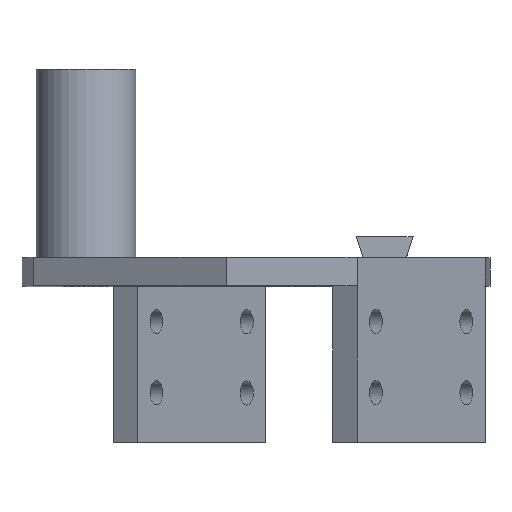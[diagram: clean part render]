
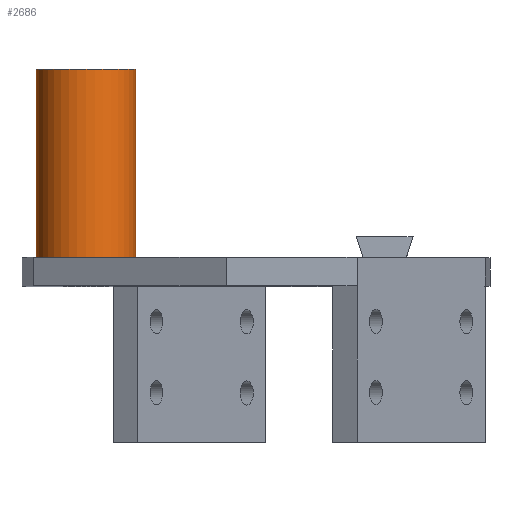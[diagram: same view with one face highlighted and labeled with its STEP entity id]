
A CAD part, top view. The second image highlights one B-rep face of the part: STEP entity #2686.
In plain terms, the highlighted cylindrical face has radius 7 mm (diameter 14 mm), a full revolution.
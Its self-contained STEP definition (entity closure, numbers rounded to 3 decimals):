
#126 = PLANE('',#127);
#127 = AXIS2_PLACEMENT_3D('',#128,#129,#130);
#128 = CARTESIAN_POINT('',(-11.536,4.,-3.975));
#129 = DIRECTION('',(-0.,-1.,-0.));
#130 = DIRECTION('',(0.,0.,-1.));
#920 = EDGE_CURVE('',#921,#921,#923,.T.);
#921 = VERTEX_POINT('',#922);
#922 = CARTESIAN_POINT('',(-23.,4.,0.));
#923 = SURFACE_CURVE('',#924,(#929,#940),.PCURVE_S1.);
#924 = CIRCLE('',#925,7.);
#925 = AXIS2_PLACEMENT_3D('',#926,#927,#928);
#926 = CARTESIAN_POINT('',(-30.,4.,0.));
#927 = DIRECTION('',(-0.,1.,0.));
#928 = DIRECTION('',(1.,0.,0.));
#929 = PCURVE('',#126,#930);
#930 = DEFINITIONAL_REPRESENTATION('',(#931),#939);
#931 = ( BOUNDED_CURVE() B_SPLINE_CURVE(2,(#932,#933,#934,#935,#936,#937
,#938),.UNSPECIFIED.,.T.,.F.) B_SPLINE_CURVE_WITH_KNOTS((1,2,2,2,2,1),(
    -2.094,0.,2.094,4.189,6.283,
8.378),.UNSPECIFIED.) CURVE() GEOMETRIC_REPRESENTATION_ITEM() 
RATIONAL_B_SPLINE_CURVE((1.,0.5,1.,0.5,1.,0.5,1.)) REPRESENTATION_ITEM(
  '') );
#932 = CARTESIAN_POINT('',(-3.975,-11.464));
#933 = CARTESIAN_POINT('',(8.149,-11.464));
#934 = CARTESIAN_POINT('',(2.087,-21.964));
#935 = CARTESIAN_POINT('',(-3.975,-32.464));
#936 = CARTESIAN_POINT('',(-10.038,-21.964));
#937 = CARTESIAN_POINT('',(-16.1,-11.464));
#938 = CARTESIAN_POINT('',(-3.975,-11.464));
#939 = ( GEOMETRIC_REPRESENTATION_CONTEXT(2) 
PARAMETRIC_REPRESENTATION_CONTEXT() REPRESENTATION_CONTEXT('2D SPACE',''
  ) );
#940 = PCURVE('',#941,#946);
#941 = CYLINDRICAL_SURFACE('',#942,7.);
#942 = AXIS2_PLACEMENT_3D('',#943,#944,#945);
#943 = CARTESIAN_POINT('',(-30.,4.,0.));
#944 = DIRECTION('',(0.,-1.,-0.));
#945 = DIRECTION('',(1.,0.,0.));
#946 = DEFINITIONAL_REPRESENTATION('',(#947),#951);
#947 = LINE('',#948,#949);
#948 = CARTESIAN_POINT('',(-0.,0.));
#949 = VECTOR('',#950,1.);
#950 = DIRECTION('',(-1.,0.));
#951 = ( GEOMETRIC_REPRESENTATION_CONTEXT(2) 
PARAMETRIC_REPRESENTATION_CONTEXT() REPRESENTATION_CONTEXT('2D SPACE',''
  ) );
#2686 = ADVANCED_FACE('',(#2687),#941,.T.);
#2687 = FACE_BOUND('',#2688,.F.);
#2688 = EDGE_LOOP('',(#2689,#2712,#2739,#2740));
#2689 = ORIENTED_EDGE('',*,*,#2690,.T.);
#2690 = EDGE_CURVE('',#921,#2691,#2693,.T.);
#2691 = VERTEX_POINT('',#2692);
#2692 = CARTESIAN_POINT('',(-23.,30.5,0.));
#2693 = SEAM_CURVE('',#2694,(#2698,#2705),.PCURVE_S1.);
#2694 = LINE('',#2695,#2696);
#2695 = CARTESIAN_POINT('',(-23.,4.,0.));
#2696 = VECTOR('',#2697,1.);
#2697 = DIRECTION('',(0.,1.,0.));
#2698 = PCURVE('',#941,#2699);
#2699 = DEFINITIONAL_REPRESENTATION('',(#2700),#2704);
#2700 = LINE('',#2701,#2702);
#2701 = CARTESIAN_POINT('',(-0.,0.));
#2702 = VECTOR('',#2703,1.);
#2703 = DIRECTION('',(-0.,-1.));
#2704 = ( GEOMETRIC_REPRESENTATION_CONTEXT(2) 
PARAMETRIC_REPRESENTATION_CONTEXT() REPRESENTATION_CONTEXT('2D SPACE',''
  ) );
#2705 = PCURVE('',#941,#2706);
#2706 = DEFINITIONAL_REPRESENTATION('',(#2707),#2711);
#2707 = LINE('',#2708,#2709);
#2708 = CARTESIAN_POINT('',(-6.283,0.));
#2709 = VECTOR('',#2710,1.);
#2710 = DIRECTION('',(-0.,-1.));
#2711 = ( GEOMETRIC_REPRESENTATION_CONTEXT(2) 
PARAMETRIC_REPRESENTATION_CONTEXT() REPRESENTATION_CONTEXT('2D SPACE',''
  ) );
#2712 = ORIENTED_EDGE('',*,*,#2713,.T.);
#2713 = EDGE_CURVE('',#2691,#2691,#2714,.T.);
#2714 = SURFACE_CURVE('',#2715,(#2720,#2727),.PCURVE_S1.);
#2715 = CIRCLE('',#2716,7.);
#2716 = AXIS2_PLACEMENT_3D('',#2717,#2718,#2719);
#2717 = CARTESIAN_POINT('',(-30.,30.5,0.));
#2718 = DIRECTION('',(-0.,1.,0.));
#2719 = DIRECTION('',(1.,0.,0.));
#2720 = PCURVE('',#941,#2721);
#2721 = DEFINITIONAL_REPRESENTATION('',(#2722),#2726);
#2722 = LINE('',#2723,#2724);
#2723 = CARTESIAN_POINT('',(-0.,-26.5));
#2724 = VECTOR('',#2725,1.);
#2725 = DIRECTION('',(-1.,0.));
#2726 = ( GEOMETRIC_REPRESENTATION_CONTEXT(2) 
PARAMETRIC_REPRESENTATION_CONTEXT() REPRESENTATION_CONTEXT('2D SPACE',''
  ) );
#2727 = PCURVE('',#2728,#2733);
#2728 = PLANE('',#2729);
#2729 = AXIS2_PLACEMENT_3D('',#2730,#2731,#2732);
#2730 = CARTESIAN_POINT('',(-30.,30.5,0.));
#2731 = DIRECTION('',(0.,1.,0.));
#2732 = DIRECTION('',(0.,-0.,1.));
#2733 = DEFINITIONAL_REPRESENTATION('',(#2734),#2738);
#2734 = CIRCLE('',#2735,7.);
#2735 = AXIS2_PLACEMENT_2D('',#2736,#2737);
#2736 = CARTESIAN_POINT('',(0.,0.));
#2737 = DIRECTION('',(0.,1.));
#2738 = ( GEOMETRIC_REPRESENTATION_CONTEXT(2) 
PARAMETRIC_REPRESENTATION_CONTEXT() REPRESENTATION_CONTEXT('2D SPACE',''
  ) );
#2739 = ORIENTED_EDGE('',*,*,#2690,.F.);
#2740 = ORIENTED_EDGE('',*,*,#920,.F.);
